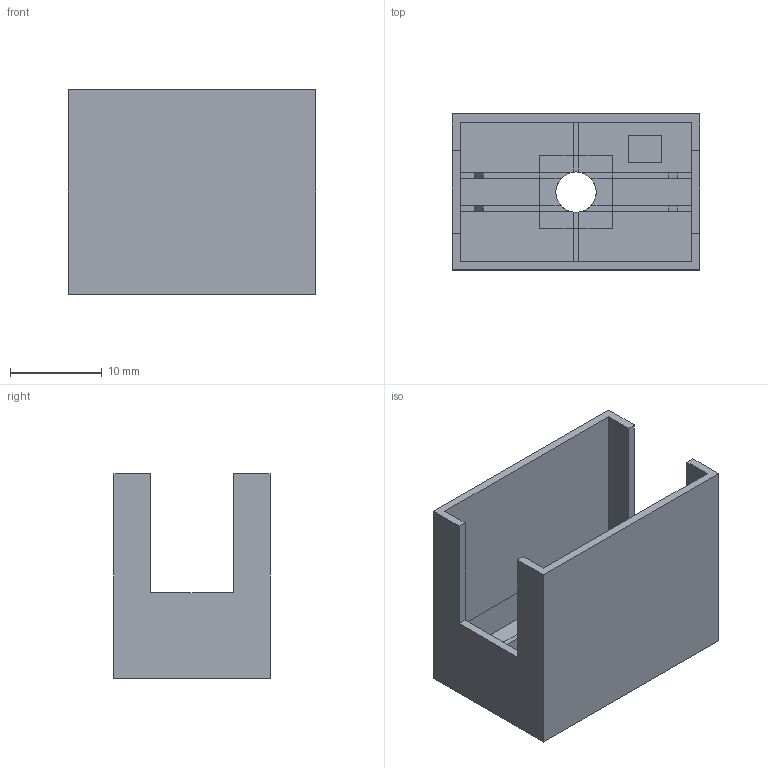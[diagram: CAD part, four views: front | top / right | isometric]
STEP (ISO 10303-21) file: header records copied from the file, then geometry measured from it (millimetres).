
FILE_DESCRIPTION(('FreeCAD Model'),'2;1');
FILE_NAME('Open CASCADE Shape Model','2024-03-19T21:52:38',(''),(''), 'Open CASCADE STEP processor 7.6','FreeCAD','Unknown');
FILE_SCHEMA(('AUTOMOTIVE_DESIGN { 1 0 10303 214 1 1 1 1 }'));
Length unit declared in the file: millimetre
Products named in the file (3): Taster_mit_LED; Body; Fuellung fuer LED
Assembly tree (2 placements, depth 2):
  Taster_mit_LED
    Body
    Fuellung fuer LED
Bounding box: 27 x 17 x 22.3 mm (x, y, z)
Volume: 2398.1 mm3; surface area: 4396.2 mm2
Topology: 2 solids, 2 shells, 96 faces, 239 edges, 146 vertices
Faces by surface type: plane 95, cylinder 1
Full cylindrical faces by diameter (mm): 4.4 x1
Entity records: 5939 total; most frequent: CARTESIAN_POINT 962, DIRECTION 929, LINE 689, VECTOR 689, ORIENTED_EDGE 478, PCURVE 478, DEFINITIONAL_REPRESENTATION 478, EDGE_CURVE 239
